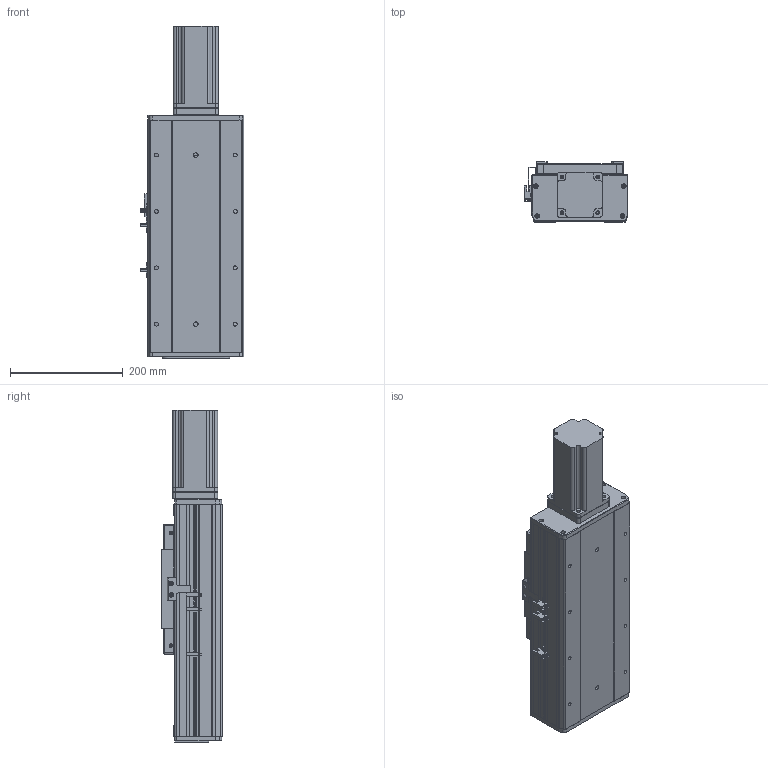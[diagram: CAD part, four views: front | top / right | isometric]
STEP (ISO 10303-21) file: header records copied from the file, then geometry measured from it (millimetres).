
FILE_DESCRIPTION (( 'STEP AP203' ), '1' );
FILE_NAME ('RY170F-L2020-300-MK.SLDASM_100.step', '2021-03-02T06:31:06', ( '盈信电脑' ), ( '东莞市道滘镇水果街19号' ), 'SwSTEP 2.0', 'SolidWorks 2012', '' );
FILE_SCHEMA (( 'CONFIG_CONTROL_DESIGN' ));
Length unit declared in the file: millimetre
Products named in the file (22): RY170F-L2020-300-MK.SLDASM_100; 覜茼ん674; 侐源滅袉蝶; 750W萇儂梓袧蛌諉啣; 怢湛750W萇儂ㄗ80遺ㄘ; RY170F-揤踡謫假蚾粣; 滅袉蝶18-24; RY170F俋离覜茼え; RY170F-詩湍揤踡輸; RY100F-詩湍揤踡謫; 滅袉蝶18-10; 覜茼ん672; RY170F-后盖板(铝件）; RY170F-直连前盖板(铝件）; 侂狟400W侜督萇儂; RY170F-丝杆铝滑块连接板; 15; RY170F-300眻蟀倰第奻裔啣-MK_100; RY170F-滅鳥奻裔; RY170F-佪裝臏賑輸20蹟譫; RY170F-300眻蟀祥凄詩湍-MK_100; RY170F-300眻蟀倰第菁釱-MK_100
Assembly tree (26 placements, depth 3):
  RY170F-L2020-300-MK.SLDASM_100
    RY170F-300眻蟀倰第菁釱-MK_100
    RY170F-300眻蟀祥凄詩湍-MK_100
    RY170F-300眻蟀倰第奻裔啣-MK_100  x2
    RY170F-滅鳥奻裔
    RY170F-佪裝臏賑輸20蹟譫
    RY170F-丝杆铝滑块连接板
    侂狟400W侜督萇儂
      15
    RY170F-直连前盖板(铝件）
    滅袉蝶18-10
    RY100F-詩湍揤踡謫
    RY170F-后盖板(铝件）
    覜茼ん672  x3
    RY170F俋离覜茼え
    RY170F-揤踡謫假蚾粣
    RY170F-詩湍揤踡輸  x2
    滅袉蝶18-24
    750W萇儂梓袧蛌諉啣
    怢湛750W萇儂ㄗ80遺ㄘ
    侐源滅袉蝶  x2
    覜茼ん674
Bounding box: 183.7 x 107 x 589 mm (x, y, z)
Volume: 4064149.6 mm3; surface area: 1080587.9 mm2
Topology: 25 solids, 25 shells, 2156 faces, 5951 edges, 3832 vertices
Faces by surface type: plane 1001, cylinder 941, cone 196, bspline 18
Entity records: 63259 total; most frequent: CARTESIAN_POINT 12567, DIRECTION 10313, ORIENTED_EDGE 9926, EDGE_CURVE 4963, AXIS2_PLACEMENT_3D 3644, VERTEX_POINT 3252, LINE 3025, VECTOR 3025
